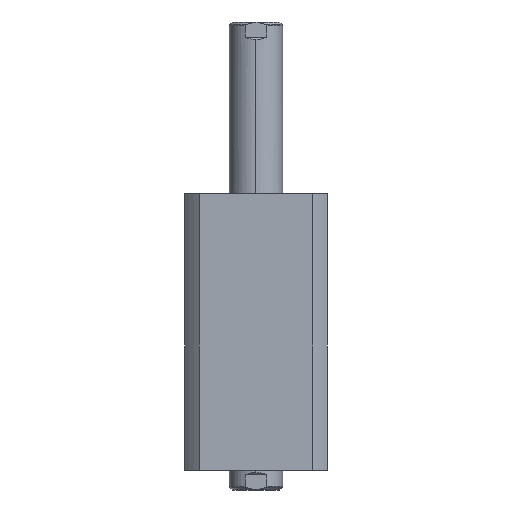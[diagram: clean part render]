
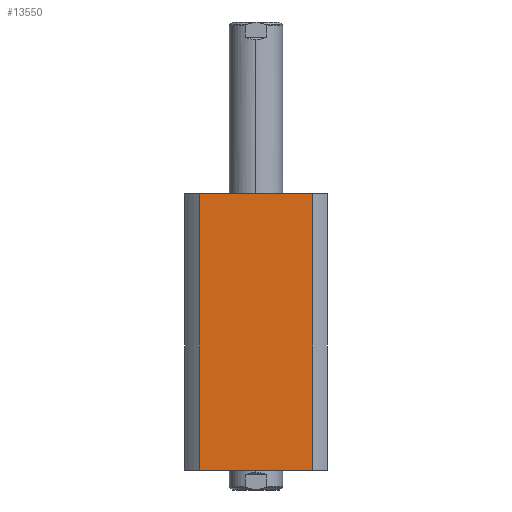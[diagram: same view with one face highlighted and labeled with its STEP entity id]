
A CAD part, left-side view. The second image highlights one B-rep face of the part: STEP entity #13550.
In plain terms, the highlighted planar face has unit normal (-1, 0, 0).
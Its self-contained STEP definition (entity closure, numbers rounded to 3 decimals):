
#330 = DIRECTION ( 'NONE',  ( 1., 0., 0. ) ) ;
#1673 = VECTOR ( 'NONE', #10843, 1000. ) ;
#1738 = CARTESIAN_POINT ( 'NONE',  ( -47., -37.296, 182. ) ) ;
#2680 = CARTESIAN_POINT ( 'NONE',  ( -47., 37.296, 300. ) ) ;
#4098 = DIRECTION ( 'NONE',  ( 0., 0., 1. ) ) ;
#4232 = AXIS2_PLACEMENT_3D ( 'NONE', #13139, #330, #16005 ) ;
#4532 = FACE_OUTER_BOUND ( 'NONE', #15009, .T. ) ;
#5007 = ORIENTED_EDGE ( 'NONE', *, *, #5616, .F. ) ;
#5616 = EDGE_CURVE ( 'NONE', #9771, #12212, #14423, .T. ) ;
#6050 = PLANE ( 'NONE',  #4232 ) ;
#6742 = EDGE_CURVE ( 'NONE', #13464, #6763, #11762, .T. ) ;
#6763 = VERTEX_POINT ( 'NONE', #13340 ) ;
#7221 = CARTESIAN_POINT ( 'NONE',  ( -47., 47., 182. ) ) ;
#8930 = EDGE_CURVE ( 'NONE', #12212, #6763, #9209, .T. ) ;
#9209 = LINE ( 'NONE', #15080, #1673 ) ;
#9752 = VECTOR ( 'NONE', #15761, 1000. ) ;
#9771 = VERTEX_POINT ( 'NONE', #16402 ) ;
#10467 = CARTESIAN_POINT ( 'NONE',  ( -47., 47., 0. ) ) ;
#10843 = DIRECTION ( 'NONE',  ( 0., 0., -1. ) ) ;
#11762 = LINE ( 'NONE', #10467, #12225 ) ;
#12212 = VERTEX_POINT ( 'NONE', #1738 ) ;
#12225 = VECTOR ( 'NONE', #16144, 1000. ) ;
#12711 = CARTESIAN_POINT ( 'NONE',  ( -47., 37.296, 0. ) ) ;
#13139 = CARTESIAN_POINT ( 'NONE',  ( -47., 47., 182. ) ) ;
#13340 = CARTESIAN_POINT ( 'NONE',  ( -47., -37.296, 0. ) ) ;
#13424 = LINE ( 'NONE', #2680, #16315 ) ;
#13464 = VERTEX_POINT ( 'NONE', #12711 ) ;
#13550 = ADVANCED_FACE ( 'NONE', ( #4532 ), #6050, .F. ) ;
#14217 = ORIENTED_EDGE ( 'NONE', *, *, #6742, .T. ) ;
#14423 = LINE ( 'NONE', #7221, #9752 ) ;
#14587 = ORIENTED_EDGE ( 'NONE', *, *, #8930, .F. ) ;
#14789 = EDGE_CURVE ( 'NONE', #13464, #9771, #13424, .T. ) ;
#15009 = EDGE_LOOP ( 'NONE', ( #14587, #5007, #17402, #14217 ) ) ;
#15080 = CARTESIAN_POINT ( 'NONE',  ( -47., -37.296, 300. ) ) ;
#15761 = DIRECTION ( 'NONE',  ( 0., -1., 0. ) ) ;
#16005 = DIRECTION ( 'NONE',  ( 0., 1., 0. ) ) ;
#16144 = DIRECTION ( 'NONE',  ( 0., -1., 0. ) ) ;
#16315 = VECTOR ( 'NONE', #4098, 1000. ) ;
#16402 = CARTESIAN_POINT ( 'NONE',  ( -47., 37.296, 182. ) ) ;
#17402 = ORIENTED_EDGE ( 'NONE', *, *, #14789, .F. ) ;
